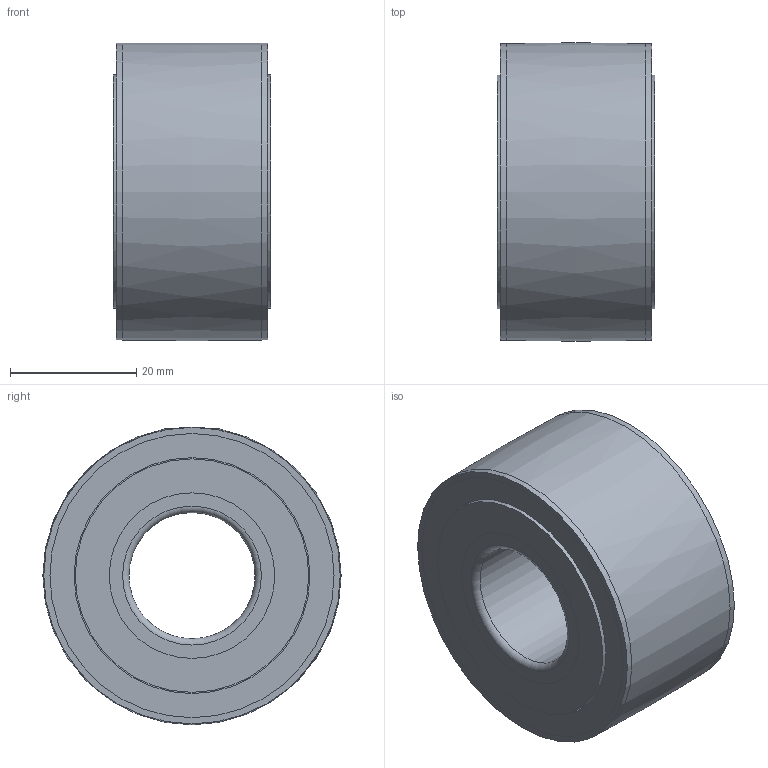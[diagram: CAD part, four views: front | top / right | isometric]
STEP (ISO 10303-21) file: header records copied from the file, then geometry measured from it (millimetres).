
FILE_DESCRIPTION(/* description */ (''),/* implementation_level */ '2;1');
FILE_NAME(/* name */ 'C:\Users\OUREHANEKD\NATV\NATV--\NATV20.stp',/* time_stamp */ '2018-06-05T13:11:46+02:00',/* author */ ('OUREHANEKD'),/* organization */ (''),/* preprocessor_version */ 'ST-DEVELOPER v16.13',/* originating_system */ 'Autodesk Inventor 2018',/* authorisation */ '');
FILE_SCHEMA (('AUTOMOTIVE_DESIGN { 1 0 10303 214 3 1 1 }'));
Length unit declared in the file: millimetre
Products named in the file (5): NATV20; NATV20-01; NATV20-needle; NATV20-shield; NATV20-02
Assembly tree (43 placements, depth 2):
  NATV20
    NATV20-01
    NATV20-needle  x40
    NATV20-shield
    NATV20-02
Bounding box: 25 x 47.29 x 47.17 mm (x, y, z)
Volume: 54826.2 mm3; surface area: 27464.2 mm2
Topology: 45 solids, 45 shells, 156 faces, 180 edges, 120 vertices
Faces by surface type: plane 96, cylinder 54, torus 4, bspline 2
Full cylindrical faces by diameter (mm): 1.728 x40, 20 x1, 26.24 x4, 28.64 x1, 32.096 x2, 37 x2, 37.4 x4
Entity records: 1375 total; most frequent: DIRECTION 254, CARTESIAN_POINT 229, AXIS2_PLACEMENT_3D 127, ORIENTED_EDGE 88, EDGE_LOOP 74, PRODUCT_DEFINITION_SHAPE 48, EDGE_CURVE 44, ITEM_DEFINED_TRANSFORMATION 43
